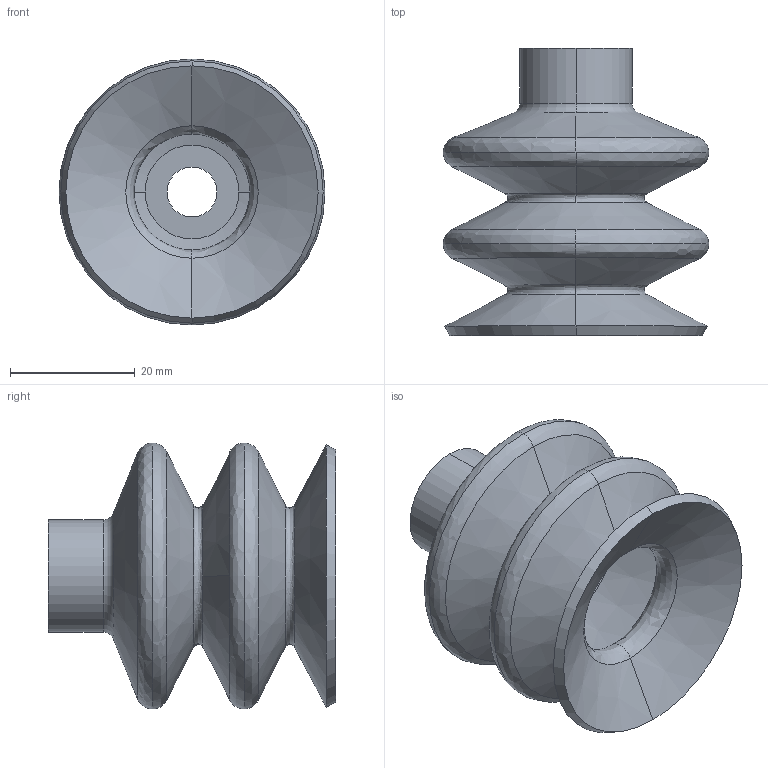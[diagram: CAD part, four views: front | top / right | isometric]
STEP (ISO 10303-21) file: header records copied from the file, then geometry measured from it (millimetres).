
FILE_DESCRIPTION (( 'STEP AP214' ), '1' );
FILE_NAME ('VS3-S42.STEP', '2019-11-13T08:50:39', ( '微软用户' ), ( '微软中国' ), 'SwSTEP 2.0', 'SolidWorks 2016', '' );
FILE_SCHEMA (( 'AUTOMOTIVE_DESIGN' ));
Length unit declared in the file: millimetre
Products named in the file (1): VS3-S42
Bounding box: 42.6 x 46 x 42.6 mm (x, y, z)
Volume: 13964.8 mm3; surface area: 14005.7 mm2
Topology: 1 solids, 1 shells, 54 faces, 114 edges, 62 vertices
Faces by surface type: bspline 24, cone 22, cylinder 4, torus 2, plane 2
Entity records: 1728 total; most frequent: CARTESIAN_POINT 663, ORIENTED_EDGE 228, DIRECTION 216, EDGE_CURVE 114, AXIS2_PLACEMENT_3D 95, CIRCLE 64, VERTEX_POINT 62, EDGE_LOOP 56
